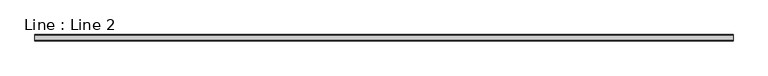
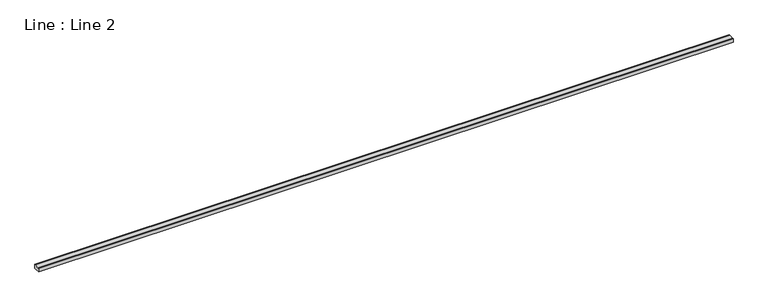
"""IFC4 building model written with IfcOpenShell, lengths in millimetres: light fixture geometry, Line : Line 2."""

from ifc_helpers import new_model, si_unit, frame, origin, place, context, project, spatial, polyline, outline, extrude, source, transform, mapped, element, save


def line_line_2_29de0733(model_context):
    return source(origin(), model_context, "Body", "SweptSolid", [
        extrude(outline(polyline([(-13.2699605, -0.6594598), (13.2699605, -0.6594598), (13.2699605, 0.4921885), (15.2699605, 0.4921885), (15.2699605, -18.9218892), (-15.2699605, -18.9218892), (-15.2699605, 0.4921885), (-13.2699605, 0.4921885), (-13.2699605, -0.6594598)])), frame((0.0, 0.0, 0.0), z_axis=(1.0, 0.0, 0.0), x_axis=(0.0, 1.0, 0.0)), (0.0, 0.0, 1.0), 3366.0290177),
    ])


if __name__ == "__main__":
    model = new_model("IFC4")
    model_context = context("Model", 3, world=origin())
    ifc_project = project(units=[si_unit("LENGTHUNIT", "METRE", prefix="MILLI")], contexts=[model_context])
    site = spatial("IfcSite", under=ifc_project)
    building = spatial("IfcBuilding", under=site)
    placement = place(None, origin())
    line_line_2_shape = line_line_2_29de0733(model_context)
    element("IfcLightFixture", 1, ObjectType="Line : Line 2", at=placement, inside=building, context=model_context, shape_type="MappedRepresentation", body=[
        mapped(line_line_2_shape, transform((0.0, 0.0, 0.0), x_axis=(1.0, 0.0, 0.0), y_axis=(0.0, 1.0, 0.0), z_axis=(0.0, 0.0, 1.0))),
    ])
    save(model, "model.ifc")
